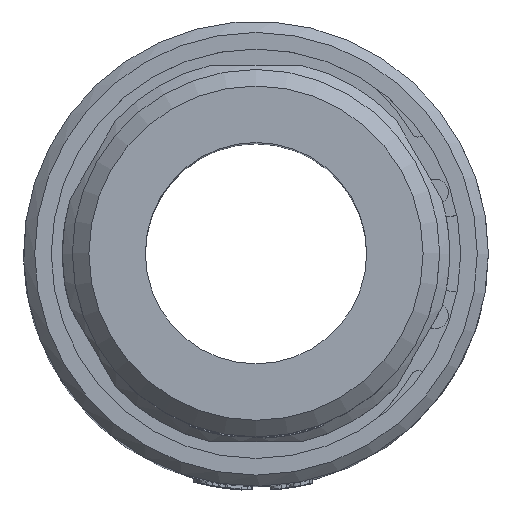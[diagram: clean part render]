
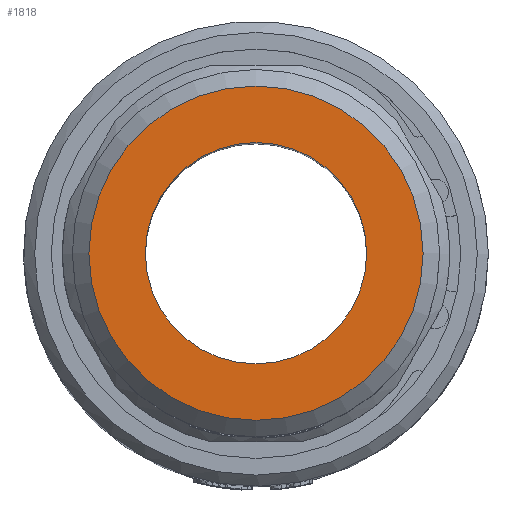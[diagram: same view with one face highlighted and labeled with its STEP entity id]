
A CAD part, top view. The second image highlights one B-rep face of the part: STEP entity #1818.
In plain terms, the highlighted planar face has unit normal (0, 0, 1).
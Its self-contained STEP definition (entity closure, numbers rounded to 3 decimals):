
#212=FACE_BOUND('',#4191,.T.);
#213=FACE_BOUND('',#4192,.T.);
#1062=CIRCLE('',#19395,10.);
#1070=CIRCLE('',#19411,15.1);
#1818=ADVANCED_FACE('',(#212,#213),#2394,.T.);
#2394=PLANE('',#19413);
#4191=EDGE_LOOP('',(#9328));
#4192=EDGE_LOOP('',(#9329));
#9328=ORIENTED_EDGE('',*,*,#15423,.T.);
#9329=ORIENTED_EDGE('',*,*,#15414,.T.);
#12851=VERTEX_POINT('',#36479);
#12859=VERTEX_POINT('',#36504);
#15414=EDGE_CURVE('',#12851,#12851,#1062,.T.);
#15423=EDGE_CURVE('',#12859,#12859,#1070,.T.);
#19395=AXIS2_PLACEMENT_3D('',#36478,#21139,#21140);
#19411=AXIS2_PLACEMENT_3D('',#36503,#21172,#21173);
#19413=AXIS2_PLACEMENT_3D('',#36506,#21176,#21177);
#21139=DIRECTION('',(0.,0.,-1.));
#21140=DIRECTION('',(1.,0.,0.));
#21172=DIRECTION('',(0.,0.,1.));
#21173=DIRECTION('',(1.,0.,0.));
#21176=DIRECTION('',(0.,0.,1.));
#21177=DIRECTION('',(-1.,0.,0.));
#36478=CARTESIAN_POINT('',(0.,0.,84.));
#36479=CARTESIAN_POINT('',(10.,0.,84.));
#36503=CARTESIAN_POINT('',(0.,0.,84.));
#36504=CARTESIAN_POINT('',(15.1,0.,84.));
#36506=CARTESIAN_POINT('',(0.,0.,84.));
